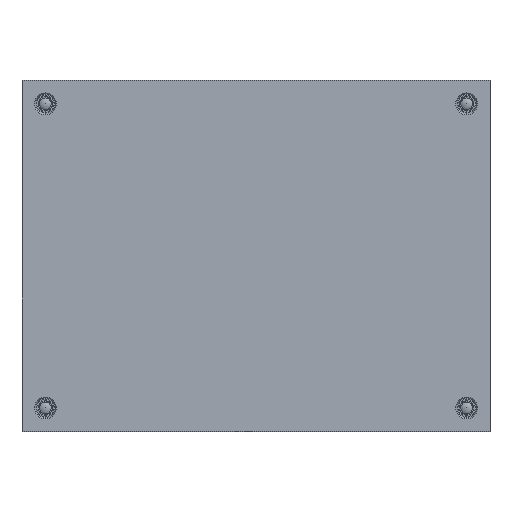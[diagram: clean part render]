
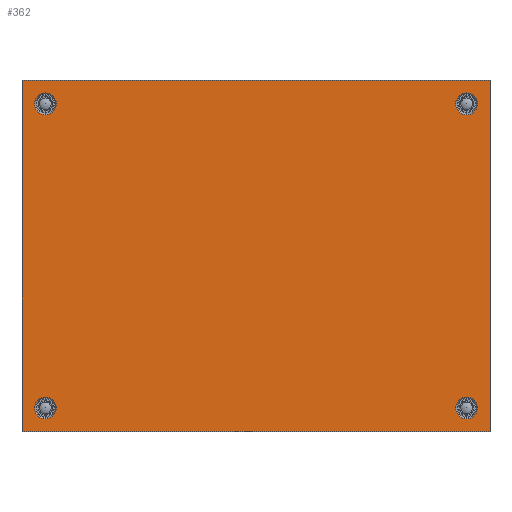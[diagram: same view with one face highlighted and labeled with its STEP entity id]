
A CAD part, top view. The second image highlights one B-rep face of the part: STEP entity #362.
In plain terms, the highlighted planar face has unit normal (0, 0, 1).
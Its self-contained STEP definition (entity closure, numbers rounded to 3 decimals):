
#362 = ADVANCED_FACE( '', ( #841, #842, #843, #844, #845 ), #846, .F. );
#841 = FACE_BOUND( '', #1527, .T. );
#842 = FACE_BOUND( '', #1528, .T. );
#843 = FACE_BOUND( '', #1529, .T. );
#844 = FACE_BOUND( '', #1530, .T. );
#845 = FACE_OUTER_BOUND( '', #1531, .T. );
#846 = PLANE( '', #1532 );
#1527 = EDGE_LOOP( '', ( #2323 ) );
#1528 = EDGE_LOOP( '', ( #2324 ) );
#1529 = EDGE_LOOP( '', ( #2325 ) );
#1530 = EDGE_LOOP( '', ( #2326 ) );
#1531 = EDGE_LOOP( '', ( #2327, #2328, #2329, #2330 ) );
#1532 = AXIS2_PLACEMENT_3D( '', #2331, #2332, #2333 );
#2323 = ORIENTED_EDGE( '', *, *, #3851, .T. );
#2324 = ORIENTED_EDGE( '', *, *, #3852, .T. );
#2325 = ORIENTED_EDGE( '', *, *, #3853, .T. );
#2326 = ORIENTED_EDGE( '', *, *, #3752, .T. );
#2327 = ORIENTED_EDGE( '', *, *, #3854, .T. );
#2328 = ORIENTED_EDGE( '', *, *, #3819, .F. );
#2329 = ORIENTED_EDGE( '', *, *, #3855, .F. );
#2330 = ORIENTED_EDGE( '', *, *, #3856, .T. );
#2331 = CARTESIAN_POINT( '', ( -200., 150., 0. ) );
#2332 = DIRECTION( '', ( 0., 0., -1. ) );
#2333 = DIRECTION( '', ( -1., 0., 0. ) );
#3752 = EDGE_CURVE( '', #4385, #4385, #4386, .T. );
#3819 = EDGE_CURVE( '', #4500, #4495, #4502, .T. );
#3851 = EDGE_CURVE( '', #4555, #4555, #4556, .T. );
#3852 = EDGE_CURVE( '', #4557, #4557, #4558, .T. );
#3853 = EDGE_CURVE( '', #4559, #4559, #4560, .T. );
#3854 = EDGE_CURVE( '', #4561, #4495, #4562, .T. );
#3855 = EDGE_CURVE( '', #4563, #4500, #4564, .T. );
#3856 = EDGE_CURVE( '', #4563, #4561, #4565, .T. );
#4385 = VERTEX_POINT( '', #5297 );
#4386 = CIRCLE( '', #5298, 9.3 );
#4495 = VERTEX_POINT( '', #5452 );
#4500 = VERTEX_POINT( '', #5459 );
#4502 = LINE( '', #5462, #5463 );
#4555 = VERTEX_POINT( '', #5538 );
#4556 = CIRCLE( '', #5539, 9.3 );
#4557 = VERTEX_POINT( '', #5540 );
#4558 = CIRCLE( '', #5541, 9.3 );
#4559 = VERTEX_POINT( '', #5542 );
#4560 = CIRCLE( '', #5543, 9.3 );
#4561 = VERTEX_POINT( '', #5544 );
#4562 = LINE( '', #5545, #5546 );
#4563 = VERTEX_POINT( '', #5547 );
#4564 = LINE( '', #5548, #5549 );
#4565 = LINE( '', #5550, #5551 );
#5297 = CARTESIAN_POINT( '', ( 170.7, 130., 0. ) );
#5298 = AXIS2_PLACEMENT_3D( '', #6483, #6484, #6485 );
#5452 = CARTESIAN_POINT( '', ( 200., -150., 0. ) );
#5459 = CARTESIAN_POINT( '', ( 200., 150., 0. ) );
#5462 = CARTESIAN_POINT( '', ( 200., 150., 0. ) );
#5463 = VECTOR( '', #6552, 1000. );
#5538 = CARTESIAN_POINT( '', ( -189.3, 130., 0. ) );
#5539 = AXIS2_PLACEMENT_3D( '', #6581, #6582, #6583 );
#5540 = CARTESIAN_POINT( '', ( 170.7, -130., 0. ) );
#5541 = AXIS2_PLACEMENT_3D( '', #6584, #6585, #6586 );
#5542 = CARTESIAN_POINT( '', ( -189.3, -130., 0. ) );
#5543 = AXIS2_PLACEMENT_3D( '', #6587, #6588, #6589 );
#5544 = CARTESIAN_POINT( '', ( -200., -150., 0. ) );
#5545 = CARTESIAN_POINT( '', ( -200., -150., 0. ) );
#5546 = VECTOR( '', #6590, 1000. );
#5547 = CARTESIAN_POINT( '', ( -200., 150., 0. ) );
#5548 = CARTESIAN_POINT( '', ( -200., 150., 0. ) );
#5549 = VECTOR( '', #6591, 1000. );
#5550 = CARTESIAN_POINT( '', ( -200., 150., 0. ) );
#5551 = VECTOR( '', #6592, 1000. );
#6483 = CARTESIAN_POINT( '', ( 180., 130., 0. ) );
#6484 = DIRECTION( '', ( 0., 0., -1. ) );
#6485 = DIRECTION( '', ( -1., 0., 0. ) );
#6552 = DIRECTION( '', ( 0., -1., 0. ) );
#6581 = CARTESIAN_POINT( '', ( -180., 130., 0. ) );
#6582 = DIRECTION( '', ( 0., 0., -1. ) );
#6583 = DIRECTION( '', ( -1., 0., 0. ) );
#6584 = CARTESIAN_POINT( '', ( 180., -130., 0. ) );
#6585 = DIRECTION( '', ( 0., 0., -1. ) );
#6586 = DIRECTION( '', ( -1., 0., 0. ) );
#6587 = CARTESIAN_POINT( '', ( -180., -130., 0. ) );
#6588 = DIRECTION( '', ( 0., 0., -1. ) );
#6589 = DIRECTION( '', ( -1., 0., 0. ) );
#6590 = DIRECTION( '', ( 1., 0., 0. ) );
#6591 = DIRECTION( '', ( 1., 0., 0. ) );
#6592 = DIRECTION( '', ( 0., -1., 0. ) );
